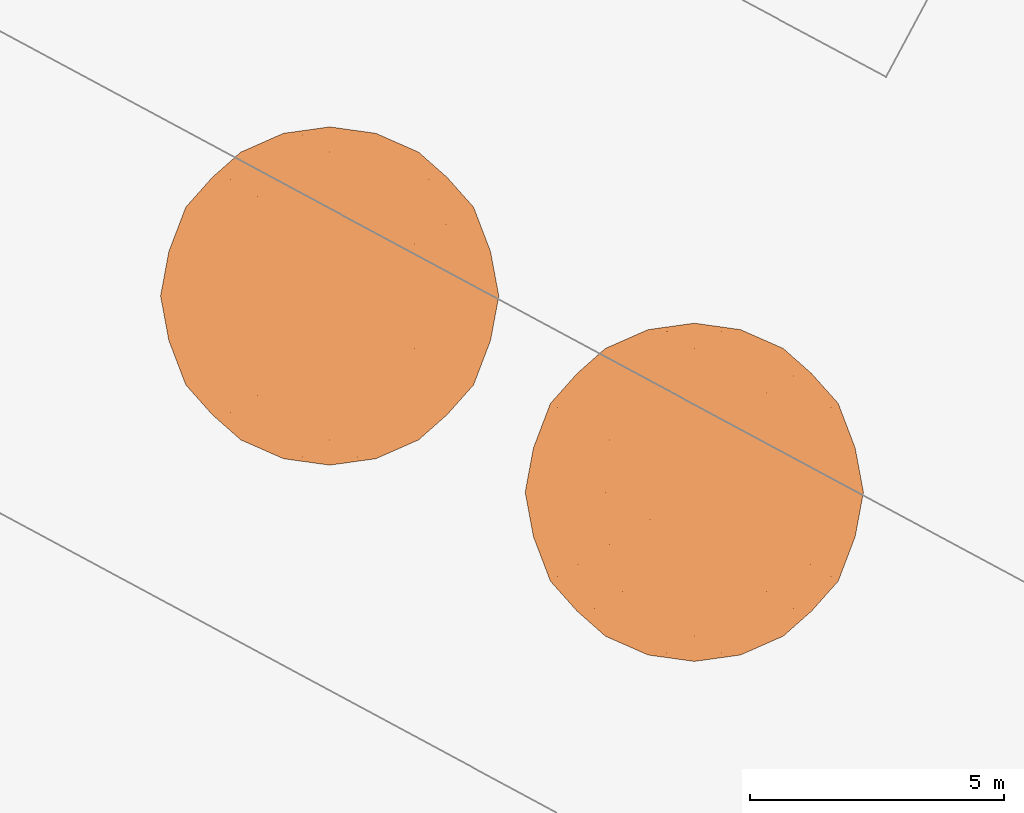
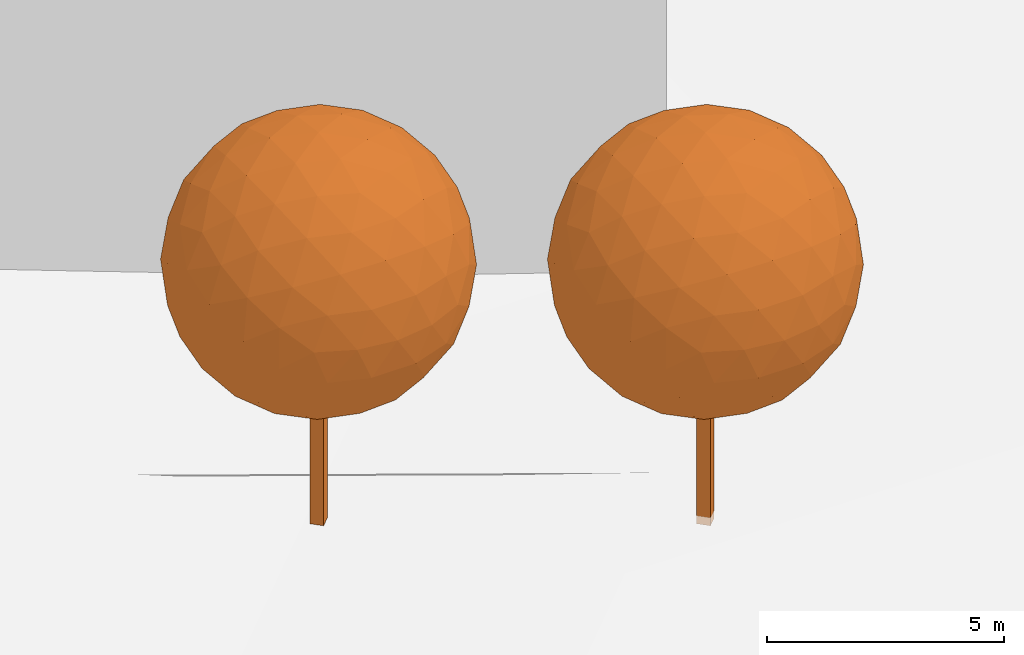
# Not in any storey, part 76 of 80: 2 geographic elements.
"""IFC4 model written with IfcOpenShell, lengths in metres."""

from ifc_helpers import new_model, si_unit, frame, origin_with_axes, place, context, subcontext, project, spatial, polygons, element, save


model = new_model("IFC4")

# Units and contexts
model_context = context("Model", 3, precision=1e-05, world=origin_with_axes())
body_context = subcontext(model_context, "Body", "Model", "MODEL_VIEW")
ifc_project = project(units=[si_unit("AREAUNIT", "SQUARE_METRE"), si_unit("LENGTHUNIT", "METRE")], contexts=[model_context])

# Sites
site_1_placement = place(None, origin_with_axes())
site_1 = spatial("IfcSite", under=ifc_project, at=site_1_placement, Name="Topoexport Site")
site_2_placement = place(site_1_placement, origin_with_axes())
site_2 = spatial("IfcSite", under=site_1, at=site_2_placement, Name="TPX_ARBRES")

# Geographic elements
geographic_element_1_placement = place(site_2_placement, frame((265.4333514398, 114.5949233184, 19.4436184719), z_axis=(0.0, 0.0, 1.0), x_axis=(1.0, 0.0, 0.0)))
element("IfcGeographicElement", 1, at=geographic_element_1_placement, inside=site_2, Name="Arbre TR2 CD66", ObjectType="VEGETATION", PredefinedType="USERDEFINED", context=body_context, shape_type="Tessellation", body=[
    polygons([(0.0, -0.2122065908, 0.0), (-0.2122065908, 0.0, 0.0), (0.0, 0.2122065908, 0.0), (0.2122065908, 0.0, 0.0), (0.0, -0.2122065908, 6.6666666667), (-0.2122065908, 0.0, 6.6666666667), (0.0, 0.2122065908, 6.6666666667), (0.2122065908, 0.0, 6.6666666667)], [[[3, 4, 1]], [[1, 2, 3]], [[5, 8, 7]], [[7, 6, 5]], [[5, 6, 1]], [[1, 6, 2]], [[6, 7, 2]], [[2, 7, 3]], [[8, 5, 4]], [[4, 5, 1]], [[7, 8, 3]], [[3, 8, 4]]]),
    polygons([(-1.7524370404, 2.8355026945, 6.6666666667), (1.7524370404, 2.8355026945, 6.6666666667), (-1.7524370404, -2.8355026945, 6.6666666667), (1.7524370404, -2.8355026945, 6.6666666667), (0.0, -1.7524370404, 9.5021693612), (0.0, 1.7524370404, 9.5021693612), (0.0, -1.7524370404, 3.8311639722), (0.0, 1.7524370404, 3.8311639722), (2.8355026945, 0.0, 4.9142296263), (2.8355026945, 0.0, 8.4191037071), (-2.8355026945, 0.0, 4.9142296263), (-2.8355026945, 0.0, 8.4191037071), (0.0, 3.3333333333, 6.6666666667), (0.0, -3.3333333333, 6.6666666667), (-1.0300566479, -2.6967233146, 8.3333333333), (1.0300566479, -2.6967233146, 8.3333333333), (-1.0300566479, 2.6967233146, 8.3333333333), (1.0300566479, 2.6967233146, 8.3333333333), (0.0, 0.0, 10.0), (-1.0300566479, -2.6967233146, 5.0), (1.0300566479, -2.6967233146, 5.0), (-1.0300566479, 2.6967233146, 5.0), (1.0300566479, 2.6967233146, 5.0), (0.0, 0.0, 3.3333333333), (2.6967233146, 1.6666666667, 5.6366100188), (2.6967233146, -1.6666666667, 5.6366100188), (1.6666666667, -1.0300566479, 3.9699433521), (1.6666666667, 1.0300566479, 3.9699433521), (2.6967233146, 1.6666666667, 7.6967233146), (2.6967233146, -1.6666666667, 7.6967233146), (1.6666666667, -1.0300566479, 9.3633899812), (1.6666666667, 1.0300566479, 9.3633899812), (3.3333333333, 0.0, 6.6666666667), (-2.6967233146, 1.6666666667, 5.6366100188), (-2.6967233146, -1.6666666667, 5.6366100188), (-1.6666666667, -1.0300566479, 3.9699433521), (-1.6666666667, 1.0300566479, 3.9699433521), (-2.6967233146, 1.6666666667, 7.6967233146), (-2.6967233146, -1.6666666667, 7.6967233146), (-1.6666666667, -1.0300566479, 9.3633899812), (-1.6666666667, 1.0300566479, 9.3633899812), (-3.3333333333, 0.0, 6.6666666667), (-0.9108884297, 3.2064611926, 6.6666666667), (0.9108884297, 3.2064611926, 6.6666666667), (-0.9108884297, -3.2064611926, 6.6666666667), (0.9108884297, -3.2064611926, 6.6666666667), (-1.4462952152, -2.8755616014, 7.5329730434), (-0.5354067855, -2.3126015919, 9.0068214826), (-0.5415328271, -3.1701883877, 7.5428851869), (1.4462952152, -2.8755616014, 7.5329730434), (0.5354067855, -2.3126015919, 9.0068214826), (0.5415328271, -3.1701883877, 7.5428851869), (0.0, -2.8355026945, 8.4191037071), (-1.4462952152, 2.8755616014, 7.5329730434), (-0.5354067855, 2.3126015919, 9.0068214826), (-0.5415328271, 3.1701883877, 7.5428851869), (1.4462952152, 2.8755616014, 7.5329730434), (0.5354067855, 2.3126015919, 9.0068214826), (0.5415328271, 3.1701883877, 7.5428851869), (0.0, 2.8355026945, 8.4191037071), (0.0, -0.9108884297, 9.8731278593), (0.0, 0.9108884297, 9.8731278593), (-1.4462952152, -2.8755616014, 5.80036029), (-0.5354067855, -2.3126015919, 4.3265118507), (-0.5415328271, -3.1701883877, 5.7904481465), (1.4462952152, -2.8755616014, 5.80036029), (0.5354067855, -2.3126015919, 4.3265118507), (0.5415328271, -3.1701883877, 5.7904481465), (0.0, -2.8355026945, 4.9142296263), (-1.4462952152, 2.8755616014, 5.80036029), (-0.5354067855, 2.3126015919, 4.3265118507), (-0.5415328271, 3.1701883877, 5.7904481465), (1.4462952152, 2.8755616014, 5.80036029), (0.5354067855, 2.3126015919, 4.3265118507), (0.5415328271, 3.1701883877, 5.7904481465), (0.0, 2.8355026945, 4.9142296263), (0.0, -0.9108884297, 3.4602054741), (0.0, 0.9108884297, 3.4602054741), (2.3126015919, 2.3401548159, 6.1312598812), (2.8755616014, 0.8663063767, 5.2203714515), (1.9592841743, 2.2939698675, 5.2489153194), (2.3126015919, -2.3401548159, 6.1312598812), (2.8755616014, -0.8663063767, 5.2203714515), (1.9592841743, -2.2939698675, 5.2489153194), (0.8663063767, -1.4462952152, 3.7911050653), (2.3401548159, -0.5354067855, 4.3540650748), (1.4177513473, -1.9592841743, 4.3726967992), (0.8762185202, -0.5415328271, 3.496478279), (2.2939698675, -1.4177513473, 4.7073824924), (0.8663063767, 1.4462952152, 3.7911050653), (2.3401548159, 0.5354067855, 4.3540650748), (1.4177513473, 1.9592841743, 4.3726967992), (0.8762185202, 0.5415328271, 3.496478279), (2.2939698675, 1.4177513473, 4.7073824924), (1.7524370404, 0.0, 3.8311639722), (2.3126015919, 2.3401548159, 7.2020734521), (2.8755616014, 0.8663063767, 8.1129618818), (1.9592841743, 2.2939698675, 8.0844180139), (2.8355026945, 1.7524370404, 6.6666666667), (2.3126015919, -2.3401548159, 7.2020734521), (2.8755616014, -0.8663063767, 8.1129618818), (1.9592841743, -2.2939698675, 8.0844180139), (2.8355026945, -1.7524370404, 6.6666666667), (0.8663063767, -1.4462952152, 9.5422282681), (2.3401548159, -0.5354067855, 8.9792682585), (1.4177513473, -1.9592841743, 8.9606365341), (0.8762185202, -0.5415328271, 9.8368550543), (2.2939698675, -1.4177513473, 8.625950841), (0.8663063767, 1.4462952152, 9.5422282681), (2.3401548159, 0.5354067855, 8.9792682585), (1.4177513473, 1.9592841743, 8.9606365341), (0.8762185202, 0.5415328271, 9.8368550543), (2.2939698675, 1.4177513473, 8.625950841), (1.7524370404, 0.0, 9.5021693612), (3.2064611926, 0.0, 5.755778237), (3.2064611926, 0.0, 7.5775550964), (3.1701883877, 0.8762185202, 6.1251338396), (3.1701883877, -0.8762185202, 6.1251338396), (3.1701883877, 0.8762185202, 7.2081994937), (3.1701883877, -0.8762185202, 7.2081994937), (-2.3126015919, 2.3401548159, 6.1312598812), (-2.8755616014, 0.8663063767, 5.2203714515), (-1.9592841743, 2.2939698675, 5.2489153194), (-2.3126015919, -2.3401548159, 6.1312598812), (-2.8755616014, -0.8663063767, 5.2203714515), (-1.9592841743, -2.2939698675, 5.2489153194), (-0.8663063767, -1.4462952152, 3.7911050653), (-2.3401548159, -0.5354067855, 4.3540650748), (-1.4177513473, -1.9592841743, 4.3726967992), (-0.8762185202, -0.5415328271, 3.496478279), (-2.2939698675, -1.4177513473, 4.7073824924), (-0.8663063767, 1.4462952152, 3.7911050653), (-2.3401548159, 0.5354067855, 4.3540650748), (-1.4177513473, 1.9592841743, 4.3726967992), (-0.8762185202, 0.5415328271, 3.496478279), (-2.2939698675, 1.4177513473, 4.7073824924), (-1.7524370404, 0.0, 3.8311639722), (-2.3126015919, 2.3401548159, 7.2020734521), (-2.8755616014, 0.8663063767, 8.1129618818), (-1.9592841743, 2.2939698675, 8.0844180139), (-2.8355026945, 1.7524370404, 6.6666666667), (-2.3126015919, -2.3401548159, 7.2020734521), (-2.8755616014, -0.8663063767, 8.1129618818), (-1.9592841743, -2.2939698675, 8.0844180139), (-2.8355026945, -1.7524370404, 6.6666666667), (-0.8663063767, -1.4462952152, 9.5422282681), (-2.3401548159, -0.5354067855, 8.9792682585), (-1.4177513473, -1.9592841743, 8.9606365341), (-0.8762185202, -0.5415328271, 9.8368550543), (-2.2939698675, -1.4177513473, 8.625950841), (-0.8663063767, 1.4462952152, 9.5422282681), (-2.3401548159, 0.5354067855, 8.9792682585), (-1.4177513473, 1.9592841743, 8.9606365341), (-0.8762185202, 0.5415328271, 9.8368550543), (-2.2939698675, 1.4177513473, 8.625950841), (-1.7524370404, 0.0, 9.5021693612), (-3.2064611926, 0.0, 5.755778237), (-3.2064611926, 0.0, 7.5775550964), (-3.1701883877, 0.8762185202, 6.1251338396), (-3.1701883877, -0.8762185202, 6.1251338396), (-3.1701883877, 0.8762185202, 7.2081994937), (-3.1701883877, -0.8762185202, 7.2081994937)], [[[1, 138, 54]], [[138, 38, 140]], [[54, 140, 17]], [[138, 140, 54]], [[38, 139, 155]], [[139, 12, 152]], [[155, 152, 41]], [[139, 152, 155]], [[17, 153, 55]], [[153, 41, 151]], [[55, 151, 6]], [[153, 151, 55]], [[38, 155, 140]], [[155, 41, 153]], [[140, 153, 17]], [[155, 153, 140]], [[1, 54, 43]], [[54, 17, 56]], [[43, 56, 13]], [[54, 56, 43]], [[17, 55, 60]], [[55, 6, 58]], [[60, 58, 18]], [[55, 58, 60]], [[13, 59, 44]], [[59, 18, 57]], [[44, 57, 2]], [[59, 57, 44]], [[17, 60, 56]], [[60, 18, 59]], [[56, 59, 13]], [[60, 59, 56]], [[1, 43, 70]], [[43, 13, 72]], [[70, 72, 22]], [[43, 72, 70]], [[13, 44, 75]], [[44, 2, 73]], [[75, 73, 23]], [[44, 73, 75]], [[22, 76, 71]], [[76, 23, 74]], [[71, 74, 8]], [[76, 74, 71]], [[13, 75, 72]], [[75, 23, 76]], [[72, 76, 22]], [[75, 76, 72]], [[1, 70, 121]], [[70, 22, 123]], [[121, 123, 34]], [[70, 123, 121]], [[22, 71, 134]], [[71, 8, 132]], [[134, 132, 37]], [[71, 132, 134]], [[34, 136, 122]], [[136, 37, 133]], [[122, 133, 11]], [[136, 133, 122]], [[22, 134, 123]], [[134, 37, 136]], [[123, 136, 34]], [[134, 136, 123]], [[1, 121, 138]], [[121, 34, 141]], [[138, 141, 38]], [[121, 141, 138]], [[34, 122, 159]], [[122, 11, 157]], [[159, 157, 42]], [[122, 157, 159]], [[38, 161, 139]], [[161, 42, 158]], [[139, 158, 12]], [[161, 158, 139]], [[34, 159, 141]], [[159, 42, 161]], [[141, 161, 38]], [[159, 161, 141]], [[2, 57, 96]], [[57, 18, 98]], [[96, 98, 29]], [[57, 98, 96]], [[18, 58, 111]], [[58, 6, 109]], [[111, 109, 32]], [[58, 109, 111]], [[29, 113, 97]], [[113, 32, 110]], [[97, 110, 10]], [[113, 110, 97]], [[18, 111, 98]], [[111, 32, 113]], [[98, 113, 29]], [[111, 113, 98]], [[6, 151, 62]], [[151, 41, 154]], [[62, 154, 19]], [[151, 154, 62]], [[41, 152, 156]], [[152, 12, 147]], [[156, 147, 40]], [[152, 147, 156]], [[19, 149, 61]], [[149, 40, 146]], [[61, 146, 5]], [[149, 146, 61]], [[41, 156, 154]], [[156, 40, 149]], [[154, 149, 19]], [[156, 149, 154]], [[12, 158, 143]], [[158, 42, 162]], [[143, 162, 39]], [[158, 162, 143]], [[42, 157, 160]], [[157, 11, 125]], [[160, 125, 35]], [[157, 125, 160]], [[39, 145, 142]], [[145, 35, 124]], [[142, 124, 3]], [[145, 124, 142]], [[42, 160, 162]], [[160, 35, 145]], [[162, 145, 39]], [[160, 145, 162]], [[11, 133, 128]], [[133, 37, 137]], [[128, 137, 36]], [[133, 137, 128]], [[37, 132, 135]], [[132, 8, 78]], [[135, 78, 24]], [[132, 78, 135]], [[36, 130, 127]], [[130, 24, 77]], [[127, 77, 7]], [[130, 77, 127]], [[37, 135, 137]], [[135, 24, 130]], [[137, 130, 36]], [[135, 130, 137]], [[8, 74, 90]], [[74, 23, 92]], [[90, 92, 28]], [[74, 92, 90]], [[23, 73, 81]], [[73, 2, 79]], [[81, 79, 25]], [[73, 79, 81]], [[28, 94, 91]], [[94, 25, 80]], [[91, 80, 9]], [[94, 80, 91]], [[23, 81, 92]], [[81, 25, 94]], [[92, 94, 28]], [[81, 94, 92]], [[4, 100, 50]], [[100, 30, 102]], [[50, 102, 16]], [[100, 102, 50]], [[30, 101, 108]], [[101, 10, 105]], [[108, 105, 31]], [[101, 105, 108]], [[16, 106, 51]], [[106, 31, 104]], [[51, 104, 5]], [[106, 104, 51]], [[30, 108, 102]], [[108, 31, 106]], [[102, 106, 16]], [[108, 106, 102]], [[4, 50, 46]], [[50, 16, 52]], [[46, 52, 14]], [[50, 52, 46]], [[16, 51, 53]], [[51, 5, 48]], [[53, 48, 15]], [[51, 48, 53]], [[14, 49, 45]], [[49, 15, 47]], [[45, 47, 3]], [[49, 47, 45]], [[16, 53, 52]], [[53, 15, 49]], [[52, 49, 14]], [[53, 49, 52]], [[4, 46, 66]], [[46, 14, 68]], [[66, 68, 21]], [[46, 68, 66]], [[14, 45, 65]], [[45, 3, 63]], [[65, 63, 20]], [[45, 63, 65]], [[21, 69, 67]], [[69, 20, 64]], [[67, 64, 7]], [[69, 64, 67]], [[14, 65, 68]], [[65, 20, 69]], [[68, 69, 21]], [[65, 69, 68]], [[4, 66, 82]], [[66, 21, 84]], [[82, 84, 26]], [[66, 84, 82]], [[21, 67, 87]], [[67, 7, 85]], [[87, 85, 27]], [[67, 85, 87]], [[26, 89, 83]], [[89, 27, 86]], [[83, 86, 9]], [[89, 86, 83]], [[21, 87, 84]], [[87, 27, 89]], [[84, 89, 26]], [[87, 89, 84]], [[4, 82, 100]], [[82, 26, 103]], [[100, 103, 30]], [[82, 103, 100]], [[26, 83, 118]], [[83, 9, 115]], [[118, 115, 33]], [[83, 115, 118]], [[30, 120, 101]], [[120, 33, 116]], [[101, 116, 10]], [[120, 116, 101]], [[26, 118, 103]], [[118, 33, 120]], [[103, 120, 30]], [[118, 120, 103]], [[5, 104, 61]], [[104, 31, 107]], [[61, 107, 19]], [[104, 107, 61]], [[31, 105, 114]], [[105, 10, 110]], [[114, 110, 32]], [[105, 110, 114]], [[19, 112, 62]], [[112, 32, 109]], [[62, 109, 6]], [[112, 109, 62]], [[31, 114, 107]], [[114, 32, 112]], [[107, 112, 19]], [[114, 112, 107]], [[3, 47, 142]], [[47, 15, 144]], [[142, 144, 39]], [[47, 144, 142]], [[15, 48, 148]], [[48, 5, 146]], [[148, 146, 40]], [[48, 146, 148]], [[39, 150, 143]], [[150, 40, 147]], [[143, 147, 12]], [[150, 147, 143]], [[15, 148, 144]], [[148, 40, 150]], [[144, 150, 39]], [[148, 150, 144]], [[7, 64, 127]], [[64, 20, 129]], [[127, 129, 36]], [[64, 129, 127]], [[20, 63, 126]], [[63, 3, 124]], [[126, 124, 35]], [[63, 124, 126]], [[36, 131, 128]], [[131, 35, 125]], [[128, 125, 11]], [[131, 125, 128]], [[20, 126, 129]], [[126, 35, 131]], [[129, 131, 36]], [[126, 131, 129]], [[9, 86, 91]], [[86, 27, 95]], [[91, 95, 28]], [[86, 95, 91]], [[27, 85, 88]], [[85, 7, 77]], [[88, 77, 24]], [[85, 77, 88]], [[28, 93, 90]], [[93, 24, 78]], [[90, 78, 8]], [[93, 78, 90]], [[27, 88, 95]], [[88, 24, 93]], [[95, 93, 28]], [[88, 93, 95]], [[10, 116, 97]], [[116, 33, 119]], [[97, 119, 29]], [[116, 119, 97]], [[33, 115, 117]], [[115, 9, 80]], [[117, 80, 25]], [[115, 80, 117]], [[29, 99, 96]], [[99, 25, 79]], [[96, 79, 2]], [[99, 79, 96]], [[33, 117, 119]], [[117, 25, 99]], [[119, 99, 29]], [[117, 99, 119]]]),
])
geographic_element_2_placement = place(site_2_placement, frame((272.6199640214, 110.7261496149, 19.2719039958), z_axis=(0.0, 0.0, 1.0), x_axis=(1.0, 0.0, 0.0)))
element("IfcGeographicElement", 2, at=geographic_element_2_placement, inside=site_2, Name="Arbre TR2 CD66", ObjectType="VEGETATION", PredefinedType="USERDEFINED", context=body_context, shape_type="Tessellation", body=[
    polygons([(0.0, -0.2122065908, 0.0), (-0.2122065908, 0.0, 0.0), (0.0, 0.2122065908, 0.0), (0.2122065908, 0.0, 0.0), (0.0, -0.2122065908, 6.6666666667), (-0.2122065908, 0.0, 6.6666666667), (0.0, 0.2122065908, 6.6666666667), (0.2122065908, 0.0, 6.6666666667)], [[[3, 4, 1]], [[1, 2, 3]], [[5, 8, 7]], [[7, 6, 5]], [[5, 6, 1]], [[1, 6, 2]], [[6, 7, 2]], [[2, 7, 3]], [[8, 5, 4]], [[4, 5, 1]], [[7, 8, 3]], [[3, 8, 4]]]),
    polygons([(-1.7524370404, 2.8355026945, 6.6666666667), (1.7524370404, 2.8355026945, 6.6666666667), (-1.7524370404, -2.8355026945, 6.6666666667), (1.7524370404, -2.8355026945, 6.6666666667), (0.0, -1.7524370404, 9.5021693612), (0.0, 1.7524370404, 9.5021693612), (0.0, -1.7524370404, 3.8311639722), (0.0, 1.7524370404, 3.8311639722), (2.8355026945, 0.0, 4.9142296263), (2.8355026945, 0.0, 8.4191037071), (-2.8355026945, 0.0, 4.9142296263), (-2.8355026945, 0.0, 8.4191037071), (0.0, 3.3333333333, 6.6666666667), (0.0, -3.3333333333, 6.6666666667), (-1.0300566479, -2.6967233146, 8.3333333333), (1.0300566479, -2.6967233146, 8.3333333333), (-1.0300566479, 2.6967233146, 8.3333333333), (1.0300566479, 2.6967233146, 8.3333333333), (0.0, 0.0, 10.0), (-1.0300566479, -2.6967233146, 5.0), (1.0300566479, -2.6967233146, 5.0), (-1.0300566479, 2.6967233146, 5.0), (1.0300566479, 2.6967233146, 5.0), (0.0, 0.0, 3.3333333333), (2.6967233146, 1.6666666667, 5.6366100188), (2.6967233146, -1.6666666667, 5.6366100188), (1.6666666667, -1.0300566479, 3.9699433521), (1.6666666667, 1.0300566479, 3.9699433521), (2.6967233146, 1.6666666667, 7.6967233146), (2.6967233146, -1.6666666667, 7.6967233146), (1.6666666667, -1.0300566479, 9.3633899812), (1.6666666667, 1.0300566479, 9.3633899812), (3.3333333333, 0.0, 6.6666666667), (-2.6967233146, 1.6666666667, 5.6366100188), (-2.6967233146, -1.6666666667, 5.6366100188), (-1.6666666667, -1.0300566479, 3.9699433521), (-1.6666666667, 1.0300566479, 3.9699433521), (-2.6967233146, 1.6666666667, 7.6967233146), (-2.6967233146, -1.6666666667, 7.6967233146), (-1.6666666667, -1.0300566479, 9.3633899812), (-1.6666666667, 1.0300566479, 9.3633899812), (-3.3333333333, 0.0, 6.6666666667), (-0.9108884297, 3.2064611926, 6.6666666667), (0.9108884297, 3.2064611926, 6.6666666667), (-0.9108884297, -3.2064611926, 6.6666666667), (0.9108884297, -3.2064611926, 6.6666666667), (-1.4462952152, -2.8755616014, 7.5329730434), (-0.5354067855, -2.3126015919, 9.0068214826), (-0.5415328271, -3.1701883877, 7.5428851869), (1.4462952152, -2.8755616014, 7.5329730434), (0.5354067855, -2.3126015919, 9.0068214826), (0.5415328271, -3.1701883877, 7.5428851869), (0.0, -2.8355026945, 8.4191037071), (-1.4462952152, 2.8755616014, 7.5329730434), (-0.5354067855, 2.3126015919, 9.0068214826), (-0.5415328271, 3.1701883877, 7.5428851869), (1.4462952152, 2.8755616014, 7.5329730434), (0.5354067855, 2.3126015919, 9.0068214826), (0.5415328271, 3.1701883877, 7.5428851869), (0.0, 2.8355026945, 8.4191037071), (0.0, -0.9108884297, 9.8731278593), (0.0, 0.9108884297, 9.8731278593), (-1.4462952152, -2.8755616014, 5.80036029), (-0.5354067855, -2.3126015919, 4.3265118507), (-0.5415328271, -3.1701883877, 5.7904481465), (1.4462952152, -2.8755616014, 5.80036029), (0.5354067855, -2.3126015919, 4.3265118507), (0.5415328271, -3.1701883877, 5.7904481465), (0.0, -2.8355026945, 4.9142296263), (-1.4462952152, 2.8755616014, 5.80036029), (-0.5354067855, 2.3126015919, 4.3265118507), (-0.5415328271, 3.1701883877, 5.7904481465), (1.4462952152, 2.8755616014, 5.80036029), (0.5354067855, 2.3126015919, 4.3265118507), (0.5415328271, 3.1701883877, 5.7904481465), (0.0, 2.8355026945, 4.9142296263), (0.0, -0.9108884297, 3.4602054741), (0.0, 0.9108884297, 3.4602054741), (2.3126015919, 2.3401548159, 6.1312598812), (2.8755616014, 0.8663063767, 5.2203714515), (1.9592841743, 2.2939698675, 5.2489153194), (2.3126015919, -2.3401548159, 6.1312598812), (2.8755616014, -0.8663063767, 5.2203714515), (1.9592841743, -2.2939698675, 5.2489153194), (0.8663063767, -1.4462952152, 3.7911050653), (2.3401548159, -0.5354067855, 4.3540650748), (1.4177513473, -1.9592841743, 4.3726967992), (0.8762185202, -0.5415328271, 3.496478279), (2.2939698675, -1.4177513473, 4.7073824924), (0.8663063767, 1.4462952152, 3.7911050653), (2.3401548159, 0.5354067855, 4.3540650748), (1.4177513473, 1.9592841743, 4.3726967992), (0.8762185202, 0.5415328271, 3.496478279), (2.2939698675, 1.4177513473, 4.7073824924), (1.7524370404, 0.0, 3.8311639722), (2.3126015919, 2.3401548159, 7.2020734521), (2.8755616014, 0.8663063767, 8.1129618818), (1.9592841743, 2.2939698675, 8.0844180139), (2.8355026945, 1.7524370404, 6.6666666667), (2.3126015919, -2.3401548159, 7.2020734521), (2.8755616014, -0.8663063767, 8.1129618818), (1.9592841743, -2.2939698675, 8.0844180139), (2.8355026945, -1.7524370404, 6.6666666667), (0.8663063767, -1.4462952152, 9.5422282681), (2.3401548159, -0.5354067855, 8.9792682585), (1.4177513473, -1.9592841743, 8.9606365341), (0.8762185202, -0.5415328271, 9.8368550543), (2.2939698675, -1.4177513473, 8.625950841), (0.8663063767, 1.4462952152, 9.5422282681), (2.3401548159, 0.5354067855, 8.9792682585), (1.4177513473, 1.9592841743, 8.9606365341), (0.8762185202, 0.5415328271, 9.8368550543), (2.2939698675, 1.4177513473, 8.625950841), (1.7524370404, 0.0, 9.5021693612), (3.2064611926, 0.0, 5.755778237), (3.2064611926, 0.0, 7.5775550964), (3.1701883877, 0.8762185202, 6.1251338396), (3.1701883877, -0.8762185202, 6.1251338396), (3.1701883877, 0.8762185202, 7.2081994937), (3.1701883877, -0.8762185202, 7.2081994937), (-2.3126015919, 2.3401548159, 6.1312598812), (-2.8755616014, 0.8663063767, 5.2203714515), (-1.9592841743, 2.2939698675, 5.2489153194), (-2.3126015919, -2.3401548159, 6.1312598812), (-2.8755616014, -0.8663063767, 5.2203714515), (-1.9592841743, -2.2939698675, 5.2489153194), (-0.8663063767, -1.4462952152, 3.7911050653), (-2.3401548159, -0.5354067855, 4.3540650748), (-1.4177513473, -1.9592841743, 4.3726967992), (-0.8762185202, -0.5415328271, 3.496478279), (-2.2939698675, -1.4177513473, 4.7073824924), (-0.8663063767, 1.4462952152, 3.7911050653), (-2.3401548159, 0.5354067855, 4.3540650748), (-1.4177513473, 1.9592841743, 4.3726967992), (-0.8762185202, 0.5415328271, 3.496478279), (-2.2939698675, 1.4177513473, 4.7073824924), (-1.7524370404, 0.0, 3.8311639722), (-2.3126015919, 2.3401548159, 7.2020734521), (-2.8755616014, 0.8663063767, 8.1129618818), (-1.9592841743, 2.2939698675, 8.0844180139), (-2.8355026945, 1.7524370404, 6.6666666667), (-2.3126015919, -2.3401548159, 7.2020734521), (-2.8755616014, -0.8663063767, 8.1129618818), (-1.9592841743, -2.2939698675, 8.0844180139), (-2.8355026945, -1.7524370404, 6.6666666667), (-0.8663063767, -1.4462952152, 9.5422282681), (-2.3401548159, -0.5354067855, 8.9792682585), (-1.4177513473, -1.9592841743, 8.9606365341), (-0.8762185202, -0.5415328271, 9.8368550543), (-2.2939698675, -1.4177513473, 8.625950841), (-0.8663063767, 1.4462952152, 9.5422282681), (-2.3401548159, 0.5354067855, 8.9792682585), (-1.4177513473, 1.9592841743, 8.9606365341), (-0.8762185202, 0.5415328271, 9.8368550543), (-2.2939698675, 1.4177513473, 8.625950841), (-1.7524370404, 0.0, 9.5021693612), (-3.2064611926, 0.0, 5.755778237), (-3.2064611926, 0.0, 7.5775550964), (-3.1701883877, 0.8762185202, 6.1251338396), (-3.1701883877, -0.8762185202, 6.1251338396), (-3.1701883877, 0.8762185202, 7.2081994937), (-3.1701883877, -0.8762185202, 7.2081994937)], [[[1, 138, 54]], [[138, 38, 140]], [[54, 140, 17]], [[138, 140, 54]], [[38, 139, 155]], [[139, 12, 152]], [[155, 152, 41]], [[139, 152, 155]], [[17, 153, 55]], [[153, 41, 151]], [[55, 151, 6]], [[153, 151, 55]], [[38, 155, 140]], [[155, 41, 153]], [[140, 153, 17]], [[155, 153, 140]], [[1, 54, 43]], [[54, 17, 56]], [[43, 56, 13]], [[54, 56, 43]], [[17, 55, 60]], [[55, 6, 58]], [[60, 58, 18]], [[55, 58, 60]], [[13, 59, 44]], [[59, 18, 57]], [[44, 57, 2]], [[59, 57, 44]], [[17, 60, 56]], [[60, 18, 59]], [[56, 59, 13]], [[60, 59, 56]], [[1, 43, 70]], [[43, 13, 72]], [[70, 72, 22]], [[43, 72, 70]], [[13, 44, 75]], [[44, 2, 73]], [[75, 73, 23]], [[44, 73, 75]], [[22, 76, 71]], [[76, 23, 74]], [[71, 74, 8]], [[76, 74, 71]], [[13, 75, 72]], [[75, 23, 76]], [[72, 76, 22]], [[75, 76, 72]], [[1, 70, 121]], [[70, 22, 123]], [[121, 123, 34]], [[70, 123, 121]], [[22, 71, 134]], [[71, 8, 132]], [[134, 132, 37]], [[71, 132, 134]], [[34, 136, 122]], [[136, 37, 133]], [[122, 133, 11]], [[136, 133, 122]], [[22, 134, 123]], [[134, 37, 136]], [[123, 136, 34]], [[134, 136, 123]], [[1, 121, 138]], [[121, 34, 141]], [[138, 141, 38]], [[121, 141, 138]], [[34, 122, 159]], [[122, 11, 157]], [[159, 157, 42]], [[122, 157, 159]], [[38, 161, 139]], [[161, 42, 158]], [[139, 158, 12]], [[161, 158, 139]], [[34, 159, 141]], [[159, 42, 161]], [[141, 161, 38]], [[159, 161, 141]], [[2, 57, 96]], [[57, 18, 98]], [[96, 98, 29]], [[57, 98, 96]], [[18, 58, 111]], [[58, 6, 109]], [[111, 109, 32]], [[58, 109, 111]], [[29, 113, 97]], [[113, 32, 110]], [[97, 110, 10]], [[113, 110, 97]], [[18, 111, 98]], [[111, 32, 113]], [[98, 113, 29]], [[111, 113, 98]], [[6, 151, 62]], [[151, 41, 154]], [[62, 154, 19]], [[151, 154, 62]], [[41, 152, 156]], [[152, 12, 147]], [[156, 147, 40]], [[152, 147, 156]], [[19, 149, 61]], [[149, 40, 146]], [[61, 146, 5]], [[149, 146, 61]], [[41, 156, 154]], [[156, 40, 149]], [[154, 149, 19]], [[156, 149, 154]], [[12, 158, 143]], [[158, 42, 162]], [[143, 162, 39]], [[158, 162, 143]], [[42, 157, 160]], [[157, 11, 125]], [[160, 125, 35]], [[157, 125, 160]], [[39, 145, 142]], [[145, 35, 124]], [[142, 124, 3]], [[145, 124, 142]], [[42, 160, 162]], [[160, 35, 145]], [[162, 145, 39]], [[160, 145, 162]], [[11, 133, 128]], [[133, 37, 137]], [[128, 137, 36]], [[133, 137, 128]], [[37, 132, 135]], [[132, 8, 78]], [[135, 78, 24]], [[132, 78, 135]], [[36, 130, 127]], [[130, 24, 77]], [[127, 77, 7]], [[130, 77, 127]], [[37, 135, 137]], [[135, 24, 130]], [[137, 130, 36]], [[135, 130, 137]], [[8, 74, 90]], [[74, 23, 92]], [[90, 92, 28]], [[74, 92, 90]], [[23, 73, 81]], [[73, 2, 79]], [[81, 79, 25]], [[73, 79, 81]], [[28, 94, 91]], [[94, 25, 80]], [[91, 80, 9]], [[94, 80, 91]], [[23, 81, 92]], [[81, 25, 94]], [[92, 94, 28]], [[81, 94, 92]], [[4, 100, 50]], [[100, 30, 102]], [[50, 102, 16]], [[100, 102, 50]], [[30, 101, 108]], [[101, 10, 105]], [[108, 105, 31]], [[101, 105, 108]], [[16, 106, 51]], [[106, 31, 104]], [[51, 104, 5]], [[106, 104, 51]], [[30, 108, 102]], [[108, 31, 106]], [[102, 106, 16]], [[108, 106, 102]], [[4, 50, 46]], [[50, 16, 52]], [[46, 52, 14]], [[50, 52, 46]], [[16, 51, 53]], [[51, 5, 48]], [[53, 48, 15]], [[51, 48, 53]], [[14, 49, 45]], [[49, 15, 47]], [[45, 47, 3]], [[49, 47, 45]], [[16, 53, 52]], [[53, 15, 49]], [[52, 49, 14]], [[53, 49, 52]], [[4, 46, 66]], [[46, 14, 68]], [[66, 68, 21]], [[46, 68, 66]], [[14, 45, 65]], [[45, 3, 63]], [[65, 63, 20]], [[45, 63, 65]], [[21, 69, 67]], [[69, 20, 64]], [[67, 64, 7]], [[69, 64, 67]], [[14, 65, 68]], [[65, 20, 69]], [[68, 69, 21]], [[65, 69, 68]], [[4, 66, 82]], [[66, 21, 84]], [[82, 84, 26]], [[66, 84, 82]], [[21, 67, 87]], [[67, 7, 85]], [[87, 85, 27]], [[67, 85, 87]], [[26, 89, 83]], [[89, 27, 86]], [[83, 86, 9]], [[89, 86, 83]], [[21, 87, 84]], [[87, 27, 89]], [[84, 89, 26]], [[87, 89, 84]], [[4, 82, 100]], [[82, 26, 103]], [[100, 103, 30]], [[82, 103, 100]], [[26, 83, 118]], [[83, 9, 115]], [[118, 115, 33]], [[83, 115, 118]], [[30, 120, 101]], [[120, 33, 116]], [[101, 116, 10]], [[120, 116, 101]], [[26, 118, 103]], [[118, 33, 120]], [[103, 120, 30]], [[118, 120, 103]], [[5, 104, 61]], [[104, 31, 107]], [[61, 107, 19]], [[104, 107, 61]], [[31, 105, 114]], [[105, 10, 110]], [[114, 110, 32]], [[105, 110, 114]], [[19, 112, 62]], [[112, 32, 109]], [[62, 109, 6]], [[112, 109, 62]], [[31, 114, 107]], [[114, 32, 112]], [[107, 112, 19]], [[114, 112, 107]], [[3, 47, 142]], [[47, 15, 144]], [[142, 144, 39]], [[47, 144, 142]], [[15, 48, 148]], [[48, 5, 146]], [[148, 146, 40]], [[48, 146, 148]], [[39, 150, 143]], [[150, 40, 147]], [[143, 147, 12]], [[150, 147, 143]], [[15, 148, 144]], [[148, 40, 150]], [[144, 150, 39]], [[148, 150, 144]], [[7, 64, 127]], [[64, 20, 129]], [[127, 129, 36]], [[64, 129, 127]], [[20, 63, 126]], [[63, 3, 124]], [[126, 124, 35]], [[63, 124, 126]], [[36, 131, 128]], [[131, 35, 125]], [[128, 125, 11]], [[131, 125, 128]], [[20, 126, 129]], [[126, 35, 131]], [[129, 131, 36]], [[126, 131, 129]], [[9, 86, 91]], [[86, 27, 95]], [[91, 95, 28]], [[86, 95, 91]], [[27, 85, 88]], [[85, 7, 77]], [[88, 77, 24]], [[85, 77, 88]], [[28, 93, 90]], [[93, 24, 78]], [[90, 78, 8]], [[93, 78, 90]], [[27, 88, 95]], [[88, 24, 93]], [[95, 93, 28]], [[88, 93, 95]], [[10, 116, 97]], [[116, 33, 119]], [[97, 119, 29]], [[116, 119, 97]], [[33, 115, 117]], [[115, 9, 80]], [[117, 80, 25]], [[115, 80, 117]], [[29, 99, 96]], [[99, 25, 79]], [[96, 79, 2]], [[99, 79, 96]], [[33, 117, 119]], [[117, 25, 99]], [[119, 99, 29]], [[117, 99, 119]]]),
])

save(model, "model.ifc")
